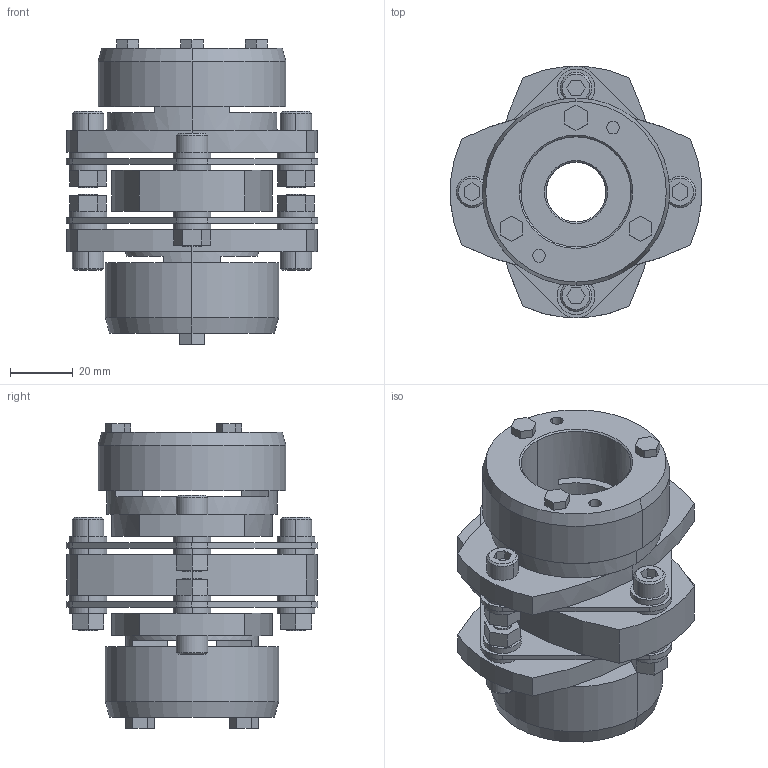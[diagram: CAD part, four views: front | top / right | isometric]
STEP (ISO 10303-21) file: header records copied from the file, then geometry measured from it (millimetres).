
FILE_DESCRIPTION((''),'2;1');
FILE_NAME('LCD-80T7-19×35.stp','2011-09-15T13:46:15',(''),(''),'AutoCAD STEP 2000i','AutoCAD 2000i',', , ');
FILE_SCHEMA(('CONFIG_CONTROL_DESIGN'));
Length unit declared in the file: millimetre
Products named in the file (13): LCD-80T7-19×35; 忣兜1; LC80T7-T035; LC80T7-T032; LC80T7-T030; LC80T7-T028; LC80T7-T024; LC80T7-T022; LC80T7-T019-1; LC80T7-T019; LC80T7-T017-1; LC80T7-T017; LCD80-ITA
Assembly tree (12 placements, depth 2):
  LCD-80T7-19×35
    忣兜1
    LC80T7-T035
    LC80T7-T032
    LC80T7-T030
    LC80T7-T028
    LC80T7-T024
    LC80T7-T022
    LC80T7-T019-1
    LC80T7-T019
    LC80T7-T017-1
    LC80T7-T017
    LCD80-ITA
Bounding box: 80 x 79.95 x 96.8 mm (x, y, z)
Volume: 179868 mm3; surface area: 57986.2 mm2
Topology: 1 solids, 1 shells, 316 faces, 770 edges, 504 vertices
Faces by surface type: plane 172, cylinder 120, cone 24
Entity records: 9633 total; most frequent: DIRECTION 1716, CARTESIAN_POINT 1603, ORIENTED_EDGE 1540, EDGE_CURVE 770, AXIS2_PLACEMENT_3D 617, VERTEX_POINT 504, VECTOR 482, LINE 482
